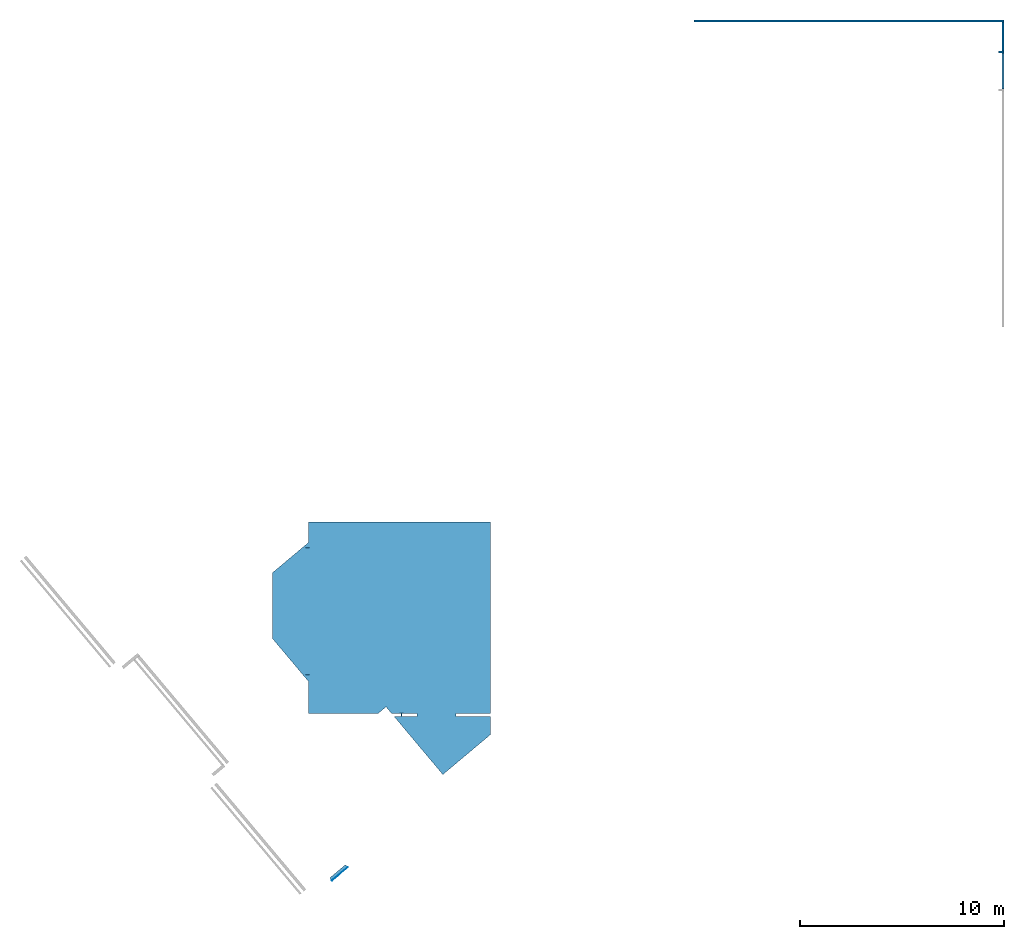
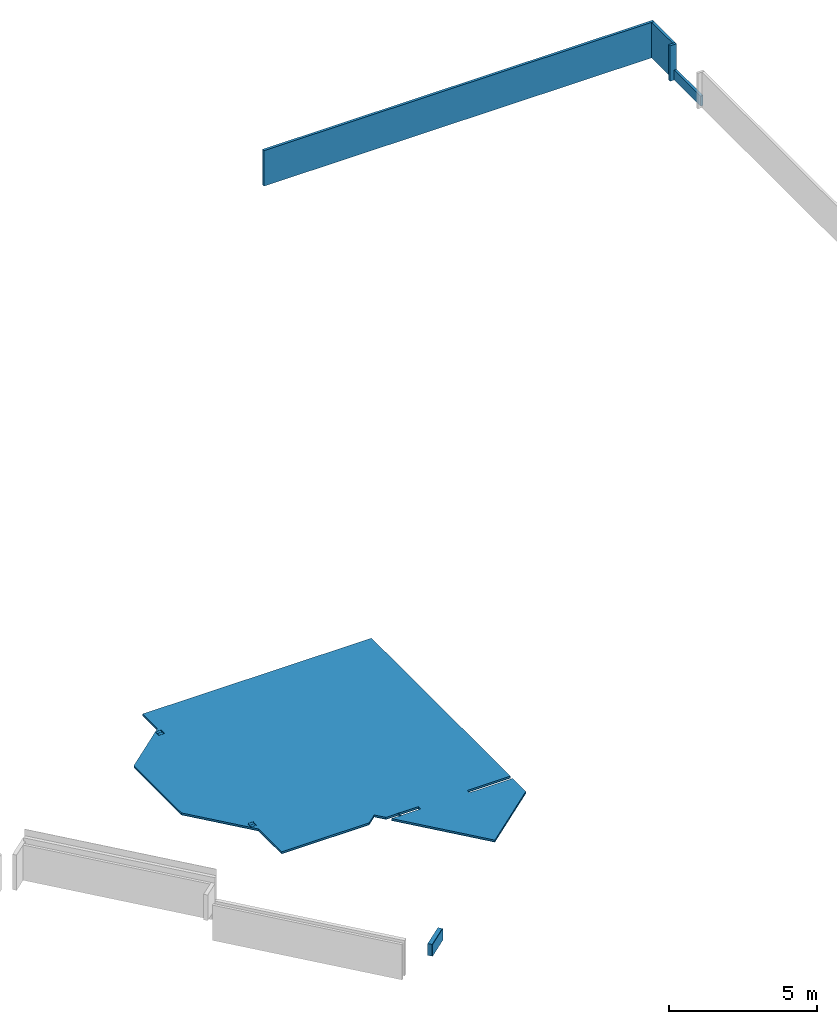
# One storey, part 2 of 2: 4 building element parts, 4 walls, 2 elements without a shape of their own.
"""IFC2X3 building model written with IfcOpenShell, lengths in millimetres."""

from ifc_helpers import new_model, entity, si_unit, converted_unit, derived_unit, money_unit, direction, frame, origin_with_axes, place, context, subcontext, project, spatial, faceted_brep, material, type_object, element, aggregate, save


model = new_model("IFC2X3")

# Units and contexts
model_context = context("Model", 3, precision=0.01, world=origin_with_axes(), true_north=direction((0.0, 1.0)))
plan_context = context("Plan", 3, precision=0.01, world=origin_with_axes(), true_north=direction((0.0, 1.0)))
body_context = subcontext(model_context, "Body", "Model", "MODEL_VIEW")
ifc_project = project(units=[si_unit("LENGTHUNIT", "METRE", prefix="MILLI"), si_unit("AREAUNIT", "SQUARE_METRE"), si_unit("VOLUMEUNIT", "CUBIC_METRE"), converted_unit("PLANEANGLEUNIT", "DEGREE", entity("IfcPlaneAngleMeasure", 0.0174532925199), si_unit("PLANEANGLEUNIT", "RADIAN"), dimensions=[0, 0, 0, 0, 0, 0, 0]), money_unit("EUR"), converted_unit("TIMEUNIT", "Year", entity("IfcTimeMeasure", 31556926.0), si_unit("TIMEUNIT", "SECOND"), dimensions=[0, 0, 1, 0, 0, 0, 0]), si_unit("MASSUNIT", "GRAM", prefix="KILO"), si_unit("THERMODYNAMICTEMPERATUREUNIT", "DEGREE_CELSIUS"), si_unit("LUMINOUSINTENSITYUNIT", "LUMEN"), si_unit("ENERGYUNIT", "JOULE", prefix="MEGA"), derived_unit("THERMALCONDUCTANCEUNIT", [(si_unit("POWERUNIT", "WATT"), 1), (si_unit("LENGTHUNIT", "METRE"), -1), (si_unit("THERMODYNAMICTEMPERATUREUNIT", "KELVIN"), -1)]), derived_unit("SPECIFICHEATCAPACITYUNIT", [(si_unit("ENERGYUNIT", "JOULE"), 1), (si_unit("MASSUNIT", "GRAM", prefix="KILO"), -1), (si_unit("THERMODYNAMICTEMPERATUREUNIT", "KELVIN"), -1)]), derived_unit("MASSDENSITYUNIT", [(si_unit("MASSUNIT", "GRAM", prefix="KILO"), 1), (si_unit("VOLUMEUNIT", "CUBIC_METRE"), -1)])], contexts=[model_context, plan_context])

# Site, building, storey
site_placement = place(None, origin_with_axes())
site = spatial("IfcSite", under=ifc_project, at=site_placement, Name="Fortuinstraat Woensdrecht", CompositionType="ELEMENT")
building_placement = place(site_placement, origin_with_axes())
building = spatial("IfcBuilding", under=site, at=building_placement, Name="IKC Fortuna", CompositionType="ELEMENT")
storey_placement = place(building_placement, frame((0.0, 0.0, -1085.0), z_axis=(0.0, 0.0, 1.0), x_axis=(1.0, 0.0, 0.0)))
storey = spatial("IfcBuildingStorey", under=building, at=storey_placement, Name="-1 fundering", CompositionType="ELEMENT", Elevation=-1085.0)

# Walls
ifc_material_1 = material(Name="Steen - Baksteen Accent")
wall_type = type_object("IfcWallType", Name="Steen - Baksteen Accent 100", PredefinedType="NOTDEFINED")
wall_1_placement = place(storey_placement, frame((44333.3129426, 35656.2966282, 600.0), z_axis=(0.0, 0.0, 1.0), x_axis=(1.0, 0.0, 0.0)))
element("IfcWall", 1, at=wall_1_placement, inside=storey, type_object=wall_type, material=ifc_material_1, Name="21_Wand_Kantplank", context=body_context, shape_type="Brep", body=[
    faceted_brep([(15360.1141145, 0.0, 1460.0), (15360.1141145, 0.0, 1459.94022575), (15360.1159932, 99.9981213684, 1459.94022575), (15360.1141145, 100.0, 1460.0), (15310.1130829, 0.0, 1458.94022575), (15310.1130829, 0.0, 1459.94022575), (180.114150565, 0.0, 1460.0), (180.114150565, 0.0, 0.0), (15360.1141145, 0.0, 0.0), (15360.1130829, 0.0, 1458.94022575), (15310.1130829, 49.995211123, 1459.94022575), (15360.1130829, 99.995211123, 1458.94022575), (15360.1141145, 100.0, 0.0), (180.114173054, 100.0, 0.0), (180.114173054, 100.0, 1460.0), (15310.1130829, 49.995211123, 1458.94022575)], [[[0, 1, 2, 3]], [[4, 5, 1, 0, 6, 7, 8, 9]], [[10, 2, 1, 5]], [[3, 2, 11, 12, 13, 14]], [[6, 0, 3, 14]], [[10, 5, 4, 15]], [[13, 7, 6, 14]], [[13, 12, 8, 7]], [[12, 11, 9, 8]], [[15, 4, 9, 11]], [[15, 11, 2, 10]]]),
])
wall_2_placement = place(storey_placement, frame((59593.4270571, 34145.312528, 600.0), z_axis=(0.0, 0.0, 1.0), x_axis=(0.0, 1.0, 0.0)))
element("IfcWall", 2, at=wall_2_placement, inside=storey, type_object=wall_type, material=ifc_material_1, Name="21_Wand_Kantplank", context=body_context, shape_type="Brep", body=[
    faceted_brep([(100.000137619, -100.0, 1460.0), (100.000137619, -100.0, 1459.94022575), (1510.98410026, -100.0, 1459.94022575), (1510.98410026, -100.0, 1460.0), (100.000137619, -49.9989683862, 1458.94022575), (100.000137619, -49.9989683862, 1459.94022575), (100.000137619, 0.0, 1460.0), (100.000137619, 0.0, 0.0), (100.000137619, -100.0, 0.0), (100.000137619, -99.9989683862, 1458.94022575), (1510.98410026, -49.9989683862, 1459.94022575), (1510.98410026, -49.9989683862, 1458.94022575), (1510.98410026, -99.9989683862, 1458.94022575), (1510.98410026, -100.0, 0.0), (1510.98410026, 0.0, 0.0), (1510.98410026, 0.0, 1460.0)], [[[0, 1, 2, 3]], [[4, 5, 1, 0, 6, 7, 8, 9]], [[5, 10, 2, 1]], [[10, 11, 12, 13, 14, 15, 3, 2]], [[0, 3, 15, 6]], [[4, 11, 10, 5]], [[6, 15, 14, 7]], [[7, 14, 13, 8]], [[13, 12, 9, 8]], [[9, 12, 11, 4]]]),
])
wall_3_placement = place(storey_placement, frame((59693.4270571, 34145.3123904, 600.0), z_axis=(0.0, 0.0, 1.0), x_axis=(0.0, -1.0, 0.0)))
element("IfcWall", 3, at=wall_3_placement, inside=storey, type_object=wall_type, material=ifc_material_1, Name="21_Wand_Kantplank", context=body_context, shape_type="Brep", body=[
    faceted_brep([(-100.000275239, 0.0, 0.0), (1770.0, 0.0, 0.0), (1770.0, -100.0, 0.0), (-100.000275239, -100.0, 0.0), (-100.000275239, 0.0, 410.0), (1770.0, 0.0, 410.0), (1770.0, -100.0, 410.0), (-100.000275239, -100.0, 410.0)], [[[0, 1, 2, 3]], [[4, 5, 1, 0]], [[2, 1, 5, 6]], [[3, 2, 6, 7]], [[4, 0, 3, 7]], [[7, 6, 5, 4]]]),
])
wall_4_placement = place(storey_placement, frame((59433.4270571, 34145.3126656, 600.0), z_axis=(0.0, 0.0, 1.0), x_axis=(1.0, 0.0, 0.0)))
element("IfcWall", 4, at=wall_4_placement, inside=storey, type_object=wall_type, material=ifc_material_1, Name="21_Wand_Kantplank", context=body_context, shape_type="Brep", body=[
    faceted_brep([(259.99999994, 100.0, 1460.0), (259.99999994, 0.0, 1460.0), (259.99999994, 0.0, 1459.94022575), (259.99999994, 100.0, 1459.94022575), (0.0, 100.0, 1460.0), (0.0, 0.0, 1460.0), (259.998968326, 0.0, 1458.94022575), (209.998968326, 0.0, 1458.94022575), (209.998968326, 0.0, 1459.94022575), (0.0, 0.0, 0.0), (159.99999994, 0.0, 0.0), (159.99999994, 0.0, 410.0), (259.99999994, 0.0, 410.0), (209.998968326, 100.0, 1459.94022575), (209.998968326, 100.0, 1458.94022575), (259.998968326, 100.0, 1458.94022575), (259.99999994, 100.0, 410.0), (159.99999994, 100.0, 410.0), (159.99999994, 100.0, 0.0), (0.0, 100.0, 0.0)], [[[0, 1, 2, 3]], [[1, 0, 4, 5]], [[6, 7, 8, 2, 1, 5, 9, 10, 11, 12]], [[2, 8, 13, 3]], [[3, 13, 14, 15, 16, 17, 18, 19, 4, 0]], [[9, 5, 4, 19]], [[7, 6, 15, 14]], [[8, 7, 14, 13]], [[10, 9, 19, 18]], [[17, 11, 10, 18]], [[16, 12, 11, 17]], [[12, 16, 15, 6]]]),
])

# Slab, building element parts
slab_type = type_object("IfcSlabType", Name="43 Vloerafwerking 90", PredefinedType="NOTDEFINED")
slab_placement = place(storey_placement, frame((23881.1597189, 5512.16818966, 250.0), z_axis=(0.0, 0.0, 1.0), x_axis=(1.0, 0.0, 0.0)))
slab = element("IfcSlab", 5, at=slab_placement, inside=storey, type_object=slab_type, Name="23_Vloer_Vloer ihw gestort", PredefinedType="NOTDEFINED")
ifc_material_2 = material(Name="Cement")
building_element_part_1_placement = place(slab_placement, origin_with_axes())
building_element_part_1 = element("IfcBuildingElementPart", 6, at=building_element_part_1_placement, material=ifc_material_2, Name="Cement", context=body_context, shape_type="Brep", body=[
    faceted_brep([(1839.27525766, 4315.12843861, 84.481776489), (1839.27525766, 4535.12843861, 84.481776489), (1839.27525763, 4535.12843858, 40.0), (1839.27525763, 4315.12843858, 40.0), (1625.04244326, 4547.62843861, 84.481776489), (1616.77525766, 4540.69144547, 84.481776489), (1616.77525766, 4302.62843861, 84.481776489), (1851.77525766, 4302.62843861, 84.481776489), (1851.77525766, 4547.62843861, 84.481776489), (1828.27525763, 4535.12843861, 84.481776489), (1828.27525763, 4315.12843861, 84.481776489), (1640.27525763, 4315.12843861, 84.481776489), (1629.27525766, 4315.12843861, 84.481776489), (1629.27525766, 4535.12843861, 84.481776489), (1640.27525763, 4535.12843861, 84.481776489), (1828.27525763, 4535.12843858, 40.0), (1629.27525763, 4315.12843858, 40.0), (1640.27525763, 4315.12843858, 40.0), (1640.27525763, 4403.62843858, 40.0), (1642.68680036, 4412.62843858, 40.0), (1649.27525763, 4419.21689585, 40.0), (1658.27525763, 4421.62843858, 40.0), (1810.27525763, 4421.62843858, 40.0), (1819.27525763, 4419.21689585, 40.0), (1825.8637149, 4412.62843858, 40.0), (1828.27525763, 4403.62843858, 40.0), (1828.27525763, 4315.12843858, 40.0), (1828.27525763, 4446.62843858, 40.0), (1825.8637149, 4437.62843858, 40.0), (1819.27525763, 4431.03998132, 40.0), (1810.27525763, 4428.62843858, 40.0), (1658.27525763, 4428.62843858, 40.0), (1649.27525763, 4431.03998132, 40.0), (1642.68680036, 4437.62843858, 40.0), (1640.27525763, 4446.62843858, 40.0), (1640.27525763, 4535.12843858, 40.0), (1629.27525763, 4535.12843858, 40.0), (1625.04261652, 4547.62843861, 90.0), (1788.25860908, 4684.58291763, 90.0), (1788.25860908, 4684.58291763, 20.0), (10.0000000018, 3192.44677614, 20.0), (10.0000000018, 3192.44677614, 90.0), (1616.77525766, 4540.69130084, 90.0), (1616.77525766, 4302.62843861, 90.0), (1851.77525766, 4302.62843861, 90.0), (1851.77525766, 4547.62843861, 90.0), (1828.27525763, 4315.12843861, 90.0), (1640.27525763, 4315.12843861, 90.0), (1640.27525763, 4535.12843861, 90.0), (1828.27525763, 4535.12843861, 90.0), (1828.27525763, 4446.62843858, 90.0), (1640.27525763, 4403.62843858, 90.0), (1642.68680036, 4412.62843858, 90.0), (1649.27525763, 4419.21689585, 90.0), (1658.27525763, 4421.62843858, 90.0), (1810.27525763, 4421.62843858, 90.0), (1819.27525763, 4419.21689585, 90.0), (1825.8637149, 4412.62843858, 90.0), (1828.27525763, 4403.62843858, 90.0), (1825.8637149, 4437.62843858, 90.0), (1819.27525763, 4431.03998132, 90.0), (1810.27525763, 4428.62843858, 90.0), (1658.27525763, 4428.62843858, 90.0), (1649.27525763, 4431.03998132, 90.0), (1642.68680036, 4437.62843858, 90.0), (1640.27525763, 4446.62843858, 90.0), (9.99999999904, -11.9175458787, 90.0), (1788.26406303, -2131.17019466, 90.0), (1788.26406303, -3301.35931222, 90.0), (1793.14301419, -3307.17381978, 90.0), (1788.26406303, -3311.2677459, 90.0), (1788.26406303, -3679.87149914, 90.0), (5197.21740816, -3679.87149914, 90.0), (5574.28078756, -3363.47775654, 90.0), (5839.76666029, -3679.87149914, 90.0), (5840.26255252, -3679.87149914, 90.0), (5844.45810277, -3684.87156139, 90.0), (6316.27525763, -3684.87156139, 90.0), (6316.27525763, -3834.87156139, 90.0), (5970.32304319, -3834.87156139, 90.0), (8355.52814819, -6677.44841056, 90.0), (10687.2673382, -4720.88694731, 90.0), (10687.2673382, -3834.87156139, 90.0), (9006.26733827, -3834.87156138, 90.0), (9006.26733827, -3684.87156138, 90.0), (10687.2673382, -3684.87156139, 90.0), (10687.2673382, 5675.12845157, 90.0), (1788.25860908, 5675.12845157, 90.0), (6352.27525763, -3684.87156139, 90.0), (7101.64914394, -3684.87156138, 90.0), (7101.64914394, -3834.87156138, 90.0), (6352.27525763, -3834.87156139, 90.0), (6244.27525763, -3683.87156138, 90.0), (6244.27525763, -3674.37156138, 90.0), (6424.27525763, -3674.37156138, 90.0), (6424.27525763, -3683.87156138, 90.0), (6352.27525763, -3683.87156138, 90.0), (6344.77525763, -3685.88118033, 90.0), (6339.28487658, -3691.37156138, 90.0), (6337.27525763, -3698.87156138, 90.0), (6337.27525763, -3820.87156138, 90.0), (6339.28487658, -3828.37156138, 90.0), (6344.77525763, -3833.86194244, 90.0), (6352.27525763, -3835.87156138, 90.0), (6424.27525763, -3835.87156138, 90.0), (6424.27525763, -3845.37156138, 90.0), (6244.27525763, -3845.37156138, 90.0), (6244.27525763, -3835.87156138, 90.0), (6316.27525763, -3835.87156138, 90.0), (6323.77525763, -3833.86194244, 90.0), (6329.26563869, -3828.37156138, 90.0), (6331.27525763, -3820.87156138, 90.0), (6331.27525763, -3698.87156138, 90.0), (6329.26563869, -3691.37156138, 90.0), (6323.77525763, -3685.88118033, 90.0), (6316.27525763, -3683.87156138, 90.0), (1616.77525766, -1912.37156139, 90.0), (1616.77525766, -1667.37156139, 90.0), (1851.77525766, -1667.37156139, 90.0), (1851.77525766, -1912.37156139, 90.0), (1788.25860908, 5675.12845157, 20.0), (10687.2673382, 5675.12845157, 20.0), (10687.2673382, -3684.87156139, 20.0), (9006.26733827, -3684.87156138, 20.0), (9006.26733827, -3834.87156138, 20.0), (10687.2673382, -3834.87156139, 20.0), (10687.2673382, -4720.88694731, 20.0), (8355.52814819, -6677.44841056, 20.0), (5970.32304319, -3834.87156139, 20.0), (6316.27525763, -3834.87156139, 20.0), (6316.27525763, -3684.87156139, 20.0), (5844.45810277, -3684.87156139, 20.0), (5840.26255252, -3679.87149914, 20.0), (5839.76666029, -3679.87149914, 20.0), (5574.28078756, -3363.47775654, 20.0), (5197.21740816, -3679.87149914, 20.0), (1788.26406303, -3679.87149914, 20.0), (1788.26406303, -3311.2677459, 20.0), (1793.14301419, -3307.17381978, 20.0), (1788.26406303, -3301.35931222, 20.0), (1788.26406303, -2131.17019466, 20.0), (9.99999999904, -11.9175458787, 20.0), (6352.27525763, -3834.87156139, 20.0), (7101.64914394, -3834.87156138, 20.0), (7101.64914394, -3684.87156138, 20.0), (6352.27525763, -3684.87156139, 20.0), (6244.27525763, -3683.87156138, 40.0), (6244.27525763, -3674.37156138, 40.0), (6424.27525763, -3674.37156138, 40.0), (6424.27525763, -3683.87156138, 40.0), (6352.27525763, -3683.87156138, 40.0), (6344.77525763, -3685.88118033, 40.0), (6339.28487658, -3691.37156138, 40.0), (6337.27525763, -3698.87156138, 40.0), (6337.27525763, -3820.87156138, 40.0), (6339.28487658, -3828.37156138, 40.0), (6344.77525763, -3833.86194244, 40.0), (6352.27525763, -3835.87156138, 40.0), (6424.27525763, -3835.87156138, 40.0), (6424.27525763, -3845.37156138, 40.0), (6244.27525763, -3845.37156138, 40.0), (6244.27525763, -3835.87156138, 40.0), (6316.27525763, -3835.87156138, 40.0), (6323.77525763, -3833.86194244, 40.0), (6329.26563869, -3828.37156138, 40.0), (6331.27525763, -3820.87156138, 40.0), (6331.27525763, -3698.87156138, 40.0), (6329.26563869, -3691.37156138, 40.0), (6323.77525763, -3685.88118033, 40.0), (6316.27525763, -3683.87156138, 40.0), (1616.77525766, -1912.37156139, 84.481776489), (1616.77525766, -1667.37156139, 84.481776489), (1851.77525766, -1667.37156139, 84.481776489), (1851.77525766, -1912.37156139, 84.481776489), (1828.27525763, -1679.87156139, 84.481776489), (1839.27525766, -1679.87156139, 84.481776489), (1839.27525766, -1899.87156139, 84.481776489), (1828.27525763, -1899.87156139, 84.481776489), (1640.27525763, -1899.87156139, 84.481776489), (1629.27525766, -1899.87156139, 84.481776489), (1629.27525766, -1679.87156139, 84.481776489), (1640.27525763, -1679.87156139, 84.481776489), (1828.27525763, -1679.87156138, 40.0), (1839.27525763, -1679.87156138, 40.0), (1839.27525763, -1899.87156138, 40.0), (1828.27525763, -1899.87156138, 40.0), (1828.27525763, -1899.87156139, 90.0), (1640.27525763, -1899.87156139, 90.0), (1640.27525763, -1899.87156138, 40.0), (1629.27525763, -1899.87156138, 40.0), (1629.27525763, -1679.87156138, 40.0), (1640.27525763, -1679.87156138, 40.0), (1640.27525763, -1679.87156139, 90.0), (1828.27525763, -1679.87156139, 90.0), (1828.27525763, -1768.37156138, 90.0), (1828.27525763, -1768.37156138, 40.0), (1640.27525763, -1811.37156138, 40.0), (1642.68680036, -1802.37156138, 40.0), (1649.27525763, -1795.78310412, 40.0), (1658.27525763, -1793.37156138, 40.0), (1810.27525763, -1793.37156138, 40.0), (1819.27525763, -1795.78310412, 40.0), (1825.8637149, -1802.37156138, 40.0), (1828.27525763, -1811.37156138, 40.0), (1825.8637149, -1777.37156138, 40.0), (1819.27525763, -1783.96001865, 40.0), (1810.27525763, -1786.37156138, 40.0), (1658.27525763, -1786.37156138, 40.0), (1649.27525763, -1783.96001865, 40.0), (1642.68680036, -1777.37156138, 40.0), (1640.27525763, -1768.37156138, 40.0), (1828.27525763, -1811.37156138, 90.0), (1825.8637149, -1802.37156138, 90.0), (1819.27525763, -1795.78310412, 90.0), (1810.27525763, -1793.37156138, 90.0), (1658.27525763, -1793.37156138, 90.0), (1649.27525763, -1795.78310412, 90.0), (1642.68680036, -1802.37156138, 90.0), (1640.27525763, -1811.37156138, 90.0), (1640.27525763, -1768.37156138, 90.0), (1642.68680036, -1777.37156138, 90.0), (1649.27525763, -1783.96001865, 90.0), (1658.27525763, -1786.37156138, 90.0), (1810.27525763, -1786.37156138, 90.0), (1819.27525763, -1783.96001865, 90.0), (1825.8637149, -1777.37156138, 90.0)], [[[0, 1, 2, 3]], [[4, 5, 6, 7, 8], [9, 1, 0, 10, 11, 12, 13, 14]], [[1, 9, 15, 2]], [[16, 17, 18, 19, 20, 21, 22, 23, 24, 25, 26, 3, 2, 15, 27, 28, 29, 30, 31, 32, 33, 34, 35, 36]], [[10, 0, 3, 26]], [[4, 37, 38, 39, 40, 41, 42, 5]], [[5, 42, 43, 6]], [[43, 44, 7, 6]], [[44, 45, 8, 7]], [[45, 37, 4, 8]], [[10, 46, 47, 11]], [[12, 11, 17, 16]], [[13, 12, 16, 36]], [[14, 13, 36, 35]], [[48, 49, 9, 14]], [[9, 49, 50, 27, 15]], [[11, 47, 51, 18, 17]], [[51, 52, 19, 18]], [[52, 53, 20, 19]], [[53, 54, 21, 20]], [[54, 55, 22, 21]], [[55, 56, 23, 22]], [[56, 57, 24, 23]], [[57, 58, 25, 24]], [[46, 10, 26, 25, 58]], [[50, 59, 28, 27]], [[59, 60, 29, 28]], [[60, 61, 30, 29]], [[61, 62, 31, 30]], [[62, 63, 32, 31]], [[63, 64, 33, 32]], [[64, 65, 34, 33]], [[48, 14, 35, 34, 65]], [[43, 42, 41, 66, 67, 68, 69, 70, 71, 72, 73, 74, 75, 76, 77, 78, 79, 80, 81, 82, 83, 84, 85, 86, 87, 38, 37, 45, 44], [88, 89, 90, 91], [92, 93, 94, 95, 96, 97, 98, 99, 100, 101, 102, 103, 104, 105, 106, 107, 108, 109, 110, 111, 112, 113, 114, 115], [116, 117, 118, 119]], [[38, 87, 120, 39]], [[120, 121, 122, 123, 124, 125, 126, 127, 128, 129, 130, 131, 132, 133, 134, 135, 136, 137, 138, 139, 140, 141, 40, 39], [142, 143, 144, 145]], [[141, 66, 41, 40]], [[47, 46, 58, 57, 56, 55, 54, 53, 52, 51]], [[49, 48, 65, 64, 63, 62, 61, 60, 59, 50]], [[67, 66, 141, 140]], [[140, 139, 68, 67]], [[139, 138, 69, 68]], [[70, 69, 138, 137]], [[71, 70, 137, 136]], [[136, 135, 72, 71]], [[134, 73, 72, 135]], [[134, 133, 74, 73]], [[75, 74, 133, 132]], [[75, 132, 131, 76]], [[131, 130, 77, 76]], [[130, 129, 78, 77]], [[129, 128, 79, 78]], [[127, 80, 79, 128]], [[127, 126, 81, 80]], [[126, 125, 82, 81]], [[83, 82, 125, 124]], [[124, 123, 84, 83]], [[123, 122, 85, 84]], [[122, 121, 86, 85]], [[87, 86, 121, 120]], [[145, 144, 89, 88]], [[144, 143, 90, 89]], [[142, 91, 90, 143]], [[142, 145, 88, 91]], [[93, 92, 146, 147]], [[94, 93, 147, 148]], [[95, 94, 148, 149]], [[96, 95, 149, 150]], [[97, 96, 150, 151]], [[98, 97, 151, 152]], [[99, 98, 152, 153]], [[100, 99, 153, 154]], [[101, 100, 154, 155]], [[102, 101, 155, 156]], [[103, 102, 156, 157]], [[104, 103, 157, 158]], [[105, 104, 158, 159]], [[106, 105, 159, 160]], [[107, 106, 160, 161]], [[108, 107, 161, 162]], [[109, 108, 162, 163]], [[110, 109, 163, 164]], [[111, 110, 164, 165]], [[112, 111, 165, 166]], [[113, 112, 166, 167]], [[114, 113, 167, 168]], [[115, 114, 168, 169]], [[92, 115, 169, 146]], [[117, 116, 170, 171]], [[118, 117, 171, 172]], [[119, 118, 172, 173]], [[116, 119, 173, 170]], [[161, 160, 159, 158, 157, 156, 155, 154, 153, 152, 151, 150, 149, 148, 147, 146, 169, 168, 167, 166, 165, 164, 163, 162]], [[171, 170, 173, 172], [174, 175, 176, 177, 178, 179, 180, 181]], [[175, 174, 182, 183]], [[176, 175, 183, 184]], [[177, 176, 184, 185]], [[177, 186, 187, 178]], [[179, 178, 188, 189]], [[180, 179, 189, 190]], [[181, 180, 190, 191]], [[192, 193, 174, 181]], [[174, 193, 194, 195, 182]], [[189, 188, 196, 197, 198, 199, 200, 201, 202, 203, 185, 184, 183, 182, 195, 204, 205, 206, 207, 208, 209, 210, 191, 190]], [[186, 177, 185, 203, 211]], [[187, 186, 211, 212, 213, 214, 215, 216, 217, 218]], [[178, 187, 218, 196, 188]], [[192, 181, 191, 210, 219]], [[193, 192, 219, 220, 221, 222, 223, 224, 225, 194]], [[194, 225, 204, 195]], [[218, 217, 197, 196]], [[217, 216, 198, 197]], [[216, 215, 199, 198]], [[215, 214, 200, 199]], [[214, 213, 201, 200]], [[213, 212, 202, 201]], [[212, 211, 203, 202]], [[225, 224, 205, 204]], [[224, 223, 206, 205]], [[223, 222, 207, 206]], [[222, 221, 208, 207]], [[221, 220, 209, 208]], [[220, 219, 210, 209]]]),
])
ifc_material_3 = material(Name="Isolatie - XPS zwevende dekvloer")
building_element_part_2_placement = place(slab_placement, origin_with_axes())
building_element_part_2 = element("IfcBuildingElementPart", 7, at=building_element_part_2_placement, material=ifc_material_3, Name="Isolatie - XPS zwevende dekvloer", context=body_context, shape_type="Brep", body=[
    faceted_brep([(10687.2673382, -3684.87156139, 20.0), (10687.2673382, 5675.12845157, 20.0), (1788.25860908, 5675.12845157, 20.0), (1788.25860908, 4684.58291763, 20.0), (10.0000000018, 3192.44677614, 20.0), (9.99999999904, -11.9175458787, 20.0), (1788.26406303, -2131.17019466, 20.0), (1788.26406303, -3301.35931222, 20.0), (1793.14301419, -3307.17381978, 20.0), (1788.26406303, -3311.2677459, 20.0), (1788.26406303, -3679.87149914, 20.0), (5197.21740816, -3679.87149914, 20.0), (5574.28078756, -3363.47775654, 20.0), (5839.76666029, -3679.87149914, 20.0), (5840.26255252, -3679.87149914, 20.0), (5844.45810277, -3684.87156139, 20.0), (6316.27525763, -3684.87156139, 20.0), (6316.27525763, -3834.87156139, 20.0), (5970.32304319, -3834.87156139, 20.0), (8355.52814819, -6677.44841056, 20.0), (10687.2673382, -4720.88694731, 20.0), (10687.2673382, -3834.87156139, 20.0), (9006.26733827, -3834.87156138, 20.0), (9006.26733827, -3684.87156138, 20.0), (7101.64914394, -3684.87156138, 20.0), (7101.64914394, -3834.87156138, 20.0), (6352.27525763, -3834.87156139, 20.0), (6352.27525763, -3684.87156139, 20.0), (10687.2673382, 5675.12845157, 0.0), (10687.2673382, -3684.87156139, 0.0), (1788.25860908, 5675.12845157, 0.0), (1788.25860908, 4684.58291763, 0.0), (10.0000000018, 3192.44677614, 0.0), (9.99999999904, -11.9175458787, 0.0), (1788.26406303, -2131.17019466, 0.0), (1788.26406303, -3301.35931222, 0.0), (1793.14301419, -3307.17381978, 0.0), (1788.26406303, -3311.2677459, 0.0), (1788.26406303, -3679.87149914, 0.0), (5197.21740816, -3679.87149914, 0.0), (5574.28078756, -3363.47775654, 0.0), (5839.76666029, -3679.87149914, 0.0), (5840.26255252, -3679.87149914, 0.0), (5844.45810277, -3684.87156139, 0.0), (6316.27525763, -3684.87156139, 0.0), (6316.27525763, -3834.87156139, 0.0), (5970.32304319, -3834.87156139, 0.0), (8355.52814819, -6677.44841056, 0.0), (10687.2673382, -4720.88694731, 0.0), (10687.2673382, -3834.87156139, 0.0), (9006.26733827, -3834.87156138, 0.0), (9006.26733827, -3684.87156138, 0.0), (7101.64914394, -3834.87156138, 0.0), (7101.64914394, -3684.87156138, 0.0), (6352.27525763, -3834.87156139, 0.0), (6352.27525763, -3684.87156139, 0.0)], [[[0, 1, 2, 3, 4, 5, 6, 7, 8, 9, 10, 11, 12, 13, 14, 15, 16, 17, 18, 19, 20, 21, 22, 23], [24, 25, 26, 27]], [[28, 1, 0, 29]], [[1, 28, 30, 2]], [[3, 2, 30, 31]], [[32, 4, 3, 31]], [[5, 4, 32, 33]], [[5, 33, 34, 6]], [[35, 7, 6, 34]], [[36, 8, 7, 35]], [[8, 36, 37, 9]], [[9, 37, 38, 10]], [[39, 11, 10, 38]], [[12, 11, 39, 40]], [[41, 13, 12, 40]], [[13, 41, 42, 14]], [[42, 43, 15, 14]], [[44, 16, 15, 43]], [[45, 17, 16, 44]], [[46, 18, 17, 45]], [[19, 18, 46, 47]], [[48, 20, 19, 47]], [[49, 21, 20, 48]], [[21, 49, 50, 22]], [[51, 23, 22, 50]], [[29, 0, 23, 51]], [[52, 25, 24, 53]], [[26, 25, 52, 54]], [[55, 27, 26, 54]], [[53, 24, 27, 55]], [[28, 29, 51, 50, 49, 48, 47, 46, 45, 44, 43, 42, 41, 40, 39, 38, 37, 36, 35, 34, 33, 32, 31, 30], [52, 53, 55, 54]]]),
])
aggregate(slab, [building_element_part_1, building_element_part_2])

# Covering, building element parts
covering_type = type_object("IfcCoveringType", Name="41 Kantplank 175", PredefinedType="CLADDING")
covering_placement = place(storey_placement, frame((27586.5007324, -5705.59472609, 600.0), z_axis=(0.0, 0.0, 1.0), x_axis=(-0.766044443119, -0.642787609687, 0.0)))
covering = element("IfcCovering", 8, at=covering_placement, inside=storey, type_object=covering_type, Name="41_Wandafwerking_Kantplank", PredefinedType="CLADDING")
building_element_part_3_placement = place(covering_placement, origin_with_axes())
building_element_part_3 = element("IfcBuildingElementPart", 9, at=building_element_part_3_placement, material=ifc_material_2, Name="Cement", context=body_context, shape_type="Brep", body=[
    faceted_brep([(1000.0, -15.0, 485.0), (1000.0, 0.0, 485.0), (0.0, 0.0, 485.0), (0.0, -15.0, 485.0), (1000.0, -15.0, 0.0), (1000.0, 0.0, 0.0), (0.0, 0.0, 0.0), (0.0, -15.0, 0.0)], [[[0, 1, 2, 3]], [[0, 4, 5, 1]], [[1, 5, 6, 2]], [[3, 2, 6, 7]], [[4, 0, 3, 7]], [[5, 4, 7, 6]]]),
])
ifc_material_4 = material(Name="ALG - ISOLATIE")
building_element_part_4_placement = place(covering_placement, origin_with_axes())
building_element_part_4 = element("IfcBuildingElementPart", 10, at=building_element_part_4_placement, material=ifc_material_4, Name="ALG - ISOLATIE", context=body_context, shape_type="Brep", body=[
    faceted_brep([(1000.0, -175.0, 485.0), (1000.0, -15.0, 485.0), (0.0, -15.0, 485.0), (0.0, -175.0, 485.0), (1000.0, -175.0, 0.0), (1000.0, -15.0, 0.0), (0.0, -15.0, 0.0), (0.0, -175.0, 0.0)], [[[0, 1, 2, 3]], [[0, 4, 5, 1]], [[1, 5, 6, 2]], [[3, 2, 6, 7]], [[4, 0, 3, 7]], [[5, 4, 7, 6]]]),
])
aggregate(covering, [building_element_part_3, building_element_part_4])

save(model, "model.ifc")
